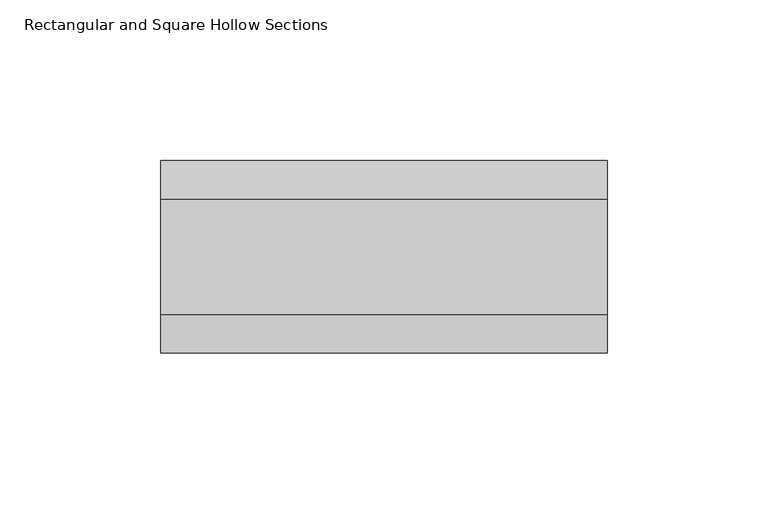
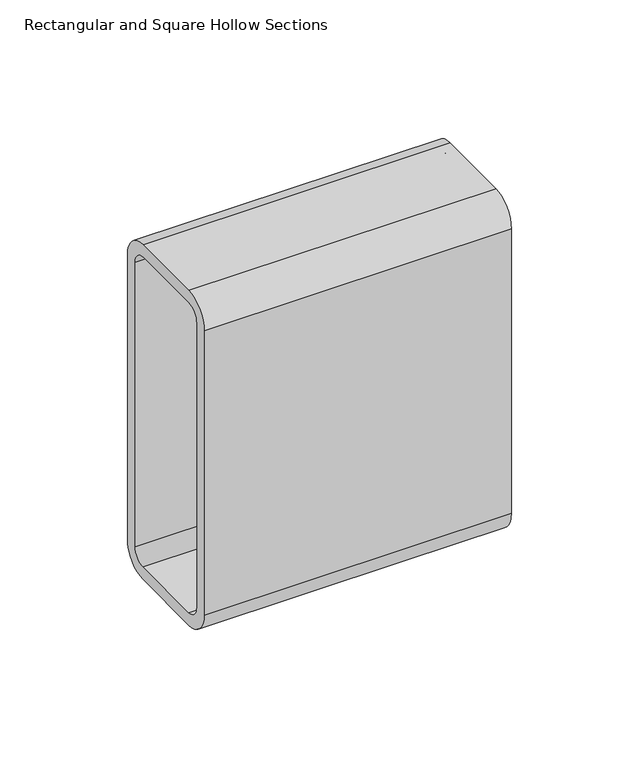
"""IFC4 building model written with IfcOpenShell, lengths in millimetres: beam geometry, Rectangular and Square Hollow Sections : TREC160x60x6."""

from ifc_helpers import new_model, si_unit, point, frame, frame_2d, origin, place, context, project, spatial, polyline, circle_curve, trimmed, segment, composite_curve, outline, extrude, source, transform, mapped, element, save


def rectangular_and_square_hollow_sections_e82c769e(model_context):
    return source(origin(), model_context, "Body", "SweptSolid", [
        extrude(outline(composite_curve([segment(polyline([(30.0, 68.0), (30.0, -68.0)]), True, "CONTINUOUS"), segment(trimmed(circle_curve(frame_2d((18.0, -68.0)), 12.0), [point((30.0, -68.0))], [point((18.0, -80.0))], False, "CARTESIAN"), True, "CONTINUOUS"), segment(polyline([(18.0, -80.0), (-18.0, -80.0)]), True, "CONTINUOUS"), segment(trimmed(circle_curve(frame_2d((-18.0, -68.0)), 12.0), [point((-18.0, -80.0))], [point((-30.0, -68.0))], False, "CARTESIAN"), True, "CONTINUOUS"), segment(polyline([(-30.0, -68.0), (-30.0, 68.0)]), True, "CONTINUOUS"), segment(trimmed(circle_curve(frame_2d((-18.0, 68.0)), 12.0), [point((-30.0, 68.0))], [point((-18.0, 80.0))], False, "CARTESIAN"), True, "CONTINUOUS"), segment(polyline([(-18.0, 80.0), (18.0, 80.0)]), True, "CONTINUOUS"), segment(trimmed(circle_curve(frame_2d((18.0, 68.0)), 12.0), [point((18.0, 80.0))], [point((30.0, 68.0))], False, "CARTESIAN"), True, "CONTINUOUS")], self_intersect=False), holes=[composite_curve([segment(trimmed(circle_curve(frame_2d((-18.0, 68.0)), 6.0), [point((-18.0, 74.0))], [point((-24.0, 68.0))], True, "CARTESIAN"), True, "CONTINUOUS"), segment(polyline([(-24.0, 68.0), (-24.0, -68.0)]), True, "CONTINUOUS"), segment(trimmed(circle_curve(frame_2d((-18.0, -68.0)), 6.0), [point((-24.0, -68.0))], [point((-18.0, -74.0))], True, "CARTESIAN"), True, "CONTINUOUS"), segment(polyline([(-18.0, -74.0), (18.0, -74.0)]), True, "CONTINUOUS"), segment(trimmed(circle_curve(frame_2d((18.0, -68.0)), 6.0), [point((18.0, -74.0))], [point((24.0, -68.0))], True, "CARTESIAN"), True, "CONTINUOUS"), segment(polyline([(24.0, -68.0), (24.0, 68.0)]), True, "CONTINUOUS"), segment(trimmed(circle_curve(frame_2d((18.0, 68.0)), 6.0), [point((24.0, 68.0))], [point((18.0, 74.0))], True, "CARTESIAN"), True, "CONTINUOUS"), segment(polyline([(18.0, 74.0), (-18.0, 74.0)]), True, "CONTINUOUS")], self_intersect=False)]), frame((-55.5, 0.0, 0.0), z_axis=(1.0, 0.0, 0.0), x_axis=(0.0, 1.0, 0.0)), (0.0, 0.0, 1.0), 139.0),
    ])


if __name__ == "__main__":
    model = new_model("IFC4")
    model_context = context("Model", 3, world=origin())
    ifc_project = project(units=[si_unit("LENGTHUNIT", "METRE", prefix="MILLI")], contexts=[model_context])
    site = spatial("IfcSite", under=ifc_project)
    building = spatial("IfcBuilding", under=site)
    placement = place(None, origin())
    rectangular_and_square_hollow_sections_shape = rectangular_and_square_hollow_sections_e82c769e(model_context)
    element("IfcBeam", 1, ObjectType="Rectangular and Square Hollow Sections : TREC160x60x6", at=placement, inside=building, context=model_context, shape_type="MappedRepresentation", body=[
        mapped(rectangular_and_square_hollow_sections_shape, transform((0.0, 0.0, 0.0), x_axis=(1.0, 0.0, 0.0), y_axis=(0.0, 1.0, 0.0), z_axis=(0.0, 0.0, 1.0))),
    ])
    save(model, "model.ifc")
